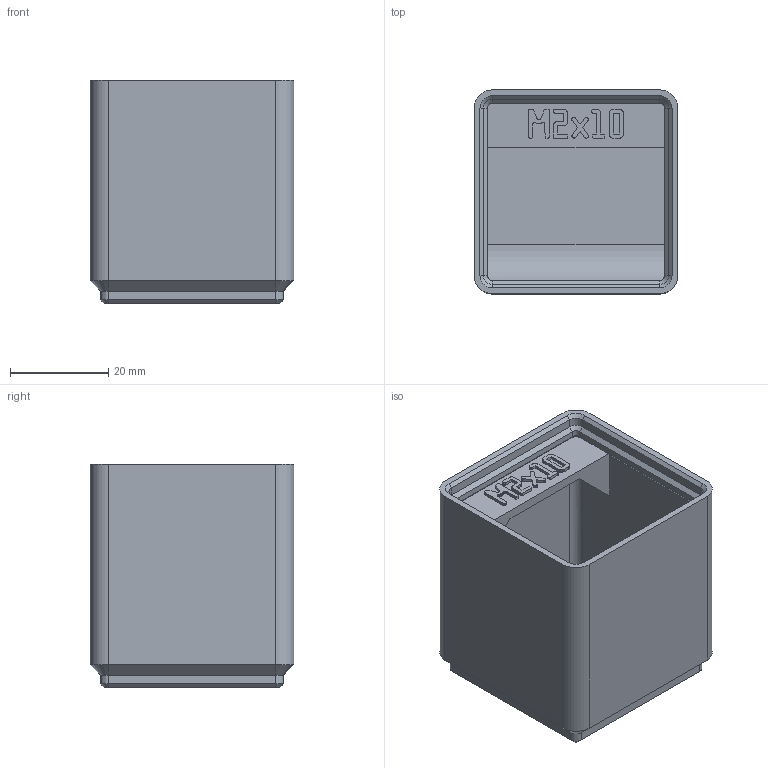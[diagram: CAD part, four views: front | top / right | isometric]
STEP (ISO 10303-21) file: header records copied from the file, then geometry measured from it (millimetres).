
FILE_DESCRIPTION(('Open CASCADE Model'),'2;1');
FILE_NAME('Open CASCADE Shape Model','2026-11-03T10:35:47',('Author'),( 'Open CASCADE'),'Open CASCADE STEP processor 8.0','build123d', 'Unknown');
FILE_SCHEMA(('AUTOMOTIVE_DESIGN { 1 0 10303 214 1 1 1 1 }'));
Length unit declared in the file: millimetre
Products named in the file (1): COMPOUND
Bounding box: 41.5 x 41.5 x 45.55 mm (x, y, z)
Volume: 24944.5 mm3; surface area: 16509.9 mm2
Topology: 1 solids, 1 shells, 593 faces, 1692 edges, 1108 vertices
Faces by surface type: plane 552, cylinder 21, cone 20
Entity records: 39961 total; most frequent: CARTESIAN_POINT 8316, DIRECTION 5087, LINE 3784, VECTOR 3784, ORIENTED_EDGE 3384, PCURVE 3384, DEFINITIONAL_REPRESENTATION 3384, EDGE_CURVE 1692
